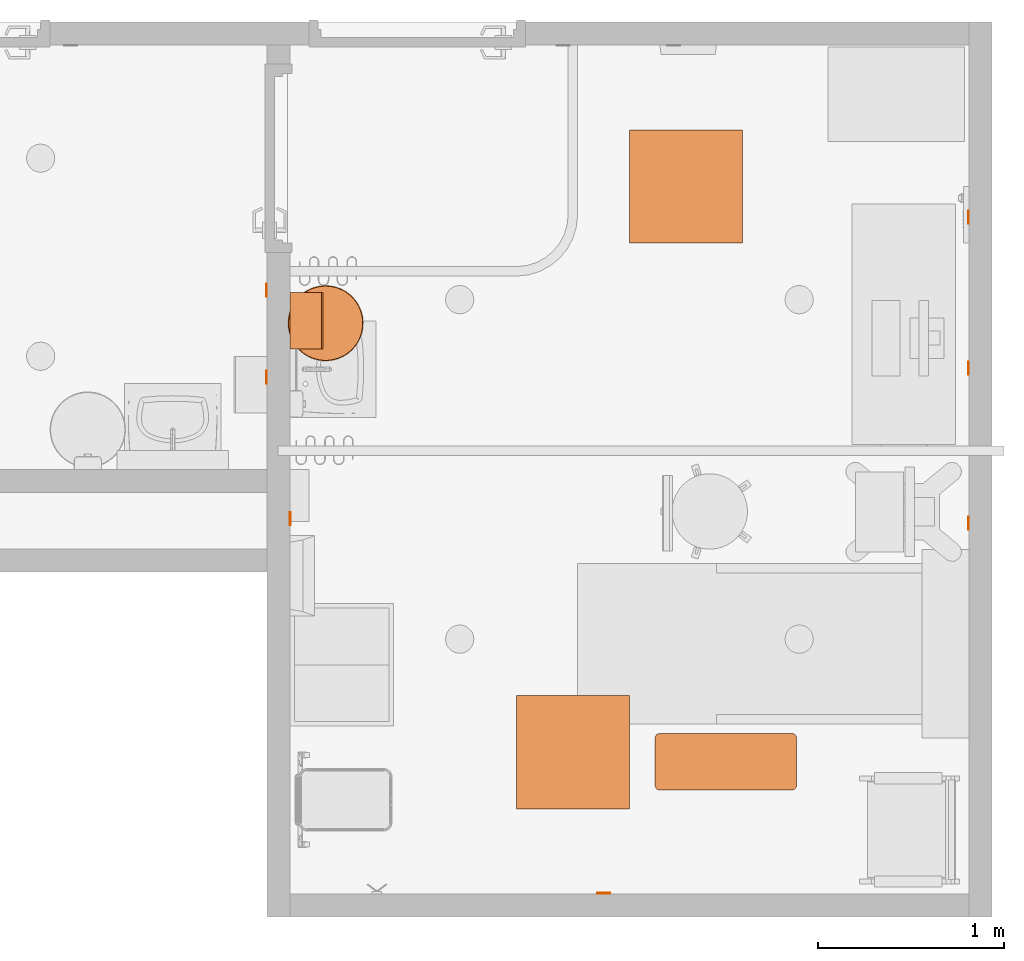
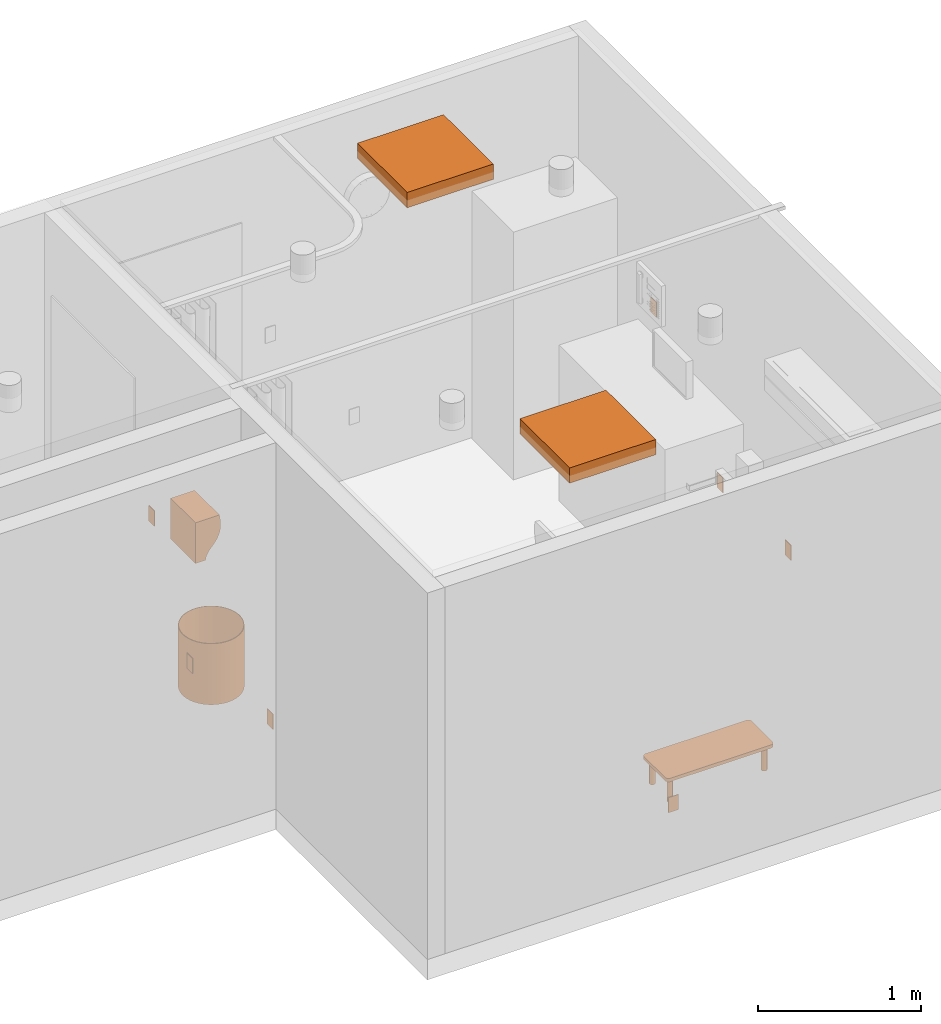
# One storey, part 11 of 14: 12 proxies.
"""IFC2X3 building model written with IfcOpenShell, lengths in feet."""

from ifc_helpers import new_model, entity, si_unit, converted_unit, derived_unit, direction, frame, frame_2d, origin, origin_2d_with_axis, place, context, subcontext, project, spatial, polyline, circle_curve, parameter, trimmed, segment, composite_curve, rectangle, circle, hollow_circle, outline, extrude, source, transform, mapped, type_object, type_shapes, element, save


model = new_model("IFC2X3")

# Units and contexts
model_context = context("Model", 3, precision=0.0001, world=origin(), true_north=direction((6.12303176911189e-17, 1.0)))
body_context = subcontext(model_context, "Body", "Model", "MODEL_VIEW")
ifc_project = project(units=[converted_unit("LENGTHUNIT", "FOOT", entity("IfcRatioMeasure", 0.3048), si_unit("LENGTHUNIT", "METRE"), dimensions=[1, 0, 0, 0, 0, 0, 0]), converted_unit("AREAUNIT", "SQUARE FOOT", entity("IfcRatioMeasure", 0.09290304), si_unit("AREAUNIT", "SQUARE_METRE"), dimensions=[2, 0, 0, 0, 0, 0, 0]), converted_unit("VOLUMEUNIT", "CUBIC FOOT", entity("IfcRatioMeasure", 0.028316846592), si_unit("VOLUMEUNIT", "CUBIC_METRE"), dimensions=[3, 0, 0, 0, 0, 0, 0]), converted_unit("PLANEANGLEUNIT", "DEGREE", entity("IfcRatioMeasure", 0.0174532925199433), si_unit("PLANEANGLEUNIT", "RADIAN"), dimensions=[0, 0, 0, 0, 0, 0, 0]), si_unit("MASSUNIT", "GRAM", prefix="KILO"), derived_unit("MASSDENSITYUNIT", [(si_unit("MASSUNIT", "GRAM", prefix="KILO"), 1), (si_unit("LENGTHUNIT", "METRE"), -3)]), si_unit("TIMEUNIT", "SECOND"), si_unit("FREQUENCYUNIT", "HERTZ"), si_unit("THERMODYNAMICTEMPERATUREUNIT", "DEGREE_CELSIUS"), derived_unit("THERMALTRANSMITTANCEUNIT", [(si_unit("MASSUNIT", "GRAM", prefix="KILO"), 1), (si_unit("THERMODYNAMICTEMPERATUREUNIT", "KELVIN"), -1), (si_unit("TIMEUNIT", "SECOND"), -3)]), derived_unit("VOLUMETRICFLOWRATEUNIT", [(si_unit("LENGTHUNIT", "METRE"), 3), (si_unit("TIMEUNIT", "SECOND"), -1)]), si_unit("ELECTRICCURRENTUNIT", "AMPERE"), si_unit("ELECTRICVOLTAGEUNIT", "VOLT"), si_unit("POWERUNIT", "WATT"), si_unit("FORCEUNIT", "NEWTON"), si_unit("ILLUMINANCEUNIT", "LUX"), si_unit("LUMINOUSFLUXUNIT", "LUMEN"), si_unit("LUMINOUSINTENSITYUNIT", "CANDELA"), derived_unit("USERDEFINED", [(si_unit("MASSUNIT", "GRAM", prefix="KILO"), -1), (si_unit("LENGTHUNIT", "METRE"), -2), (si_unit("TIMEUNIT", "SECOND"), 3), (si_unit("LUMINOUSFLUXUNIT", "LUMEN"), 1)]), derived_unit("LINEARVELOCITYUNIT", [(si_unit("LENGTHUNIT", "METRE"), 1), (si_unit("TIMEUNIT", "SECOND"), -1)]), si_unit("PRESSUREUNIT", "PASCAL"), derived_unit("USERDEFINED", [(si_unit("LENGTHUNIT", "METRE"), -2), (si_unit("MASSUNIT", "GRAM", prefix="KILO"), 1), (si_unit("TIMEUNIT", "SECOND"), -2)])], contexts=[model_context])

# Site, building, storey, space
site_placement = place(None, origin())
site = spatial("IfcSite", under=ifc_project, at=site_placement, Name="Default", CompositionType="ELEMENT")
building_placement = place(site_placement, origin())
building = spatial("IfcBuilding", under=site, at=building_placement, Name="OUTPATIENT / PACT CLINIC (Ch. 265)", CompositionType="ELEMENT")
storey_placement = place(building_placement, origin())
storey = spatial("IfcBuildingStorey", under=building, at=storey_placement, Name="DATUM", CompositionType="ELEMENT", Elevation=0.0)
space_1_placement = place(storey_placement, origin())
space_1 = spatial("IfcSpace", under=storey, at=space_1_placement, Name="XDUS1", CompositionType="ELEMENT", InteriorOrExteriorSpace="INTERNAL")

# Proxies
building_element_proxy_type_1 = type_object("IfcBuildingElementProxyType", Name="24\" x 24\"", PredefinedType="NOTDEFINED")
shared_shape_1 = source(origin(), body_context, "Body", "SweptSolid", [
    extrude(rectangle(XDim=2.0, YDim=2.0, at=origin_2d_with_axis()), frame((0.0, 0.0, 8.0)), (0.0, 0.0, 1.0), 0.375),
])
type_shapes(building_element_proxy_type_1, [shared_shape_1])
proxy_1_placement = place(space_1_placement, frame((339.637693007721, -845.593724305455, 1.0)))
element("IfcBuildingElementProxy", 1, at=proxy_1_placement, inside=space_1, type_object=building_element_proxy_type_1, Name="Return Register:24\" x 24\"", ObjectType="24\" x 24\"", context=body_context, shape_type="MappedRepresentation", body=[
    mapped(shared_shape_1, transform((0.0, 0.0, 0.0), scale=1.0)),
])
building_element_proxy_type_2 = type_object("IfcBuildingElementProxyType", Name="F0355 - Footstool, Straight", PredefinedType="NOTDEFINED")
shared_shape_2 = source(origin(), body_context, "Body", "SweptSolid", [
    extrude(circle(Radius=0.0625, at=frame_2d((0.0, -1.11022302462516e-16), x_axis=(1.0, 0.0))), frame((-1.09454519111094, -0.349334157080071, 0.0)), (0.0, 0.0, 1.0), 0.583333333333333),
    extrude(outline(composite_curve([segment(polyline([(-0.416666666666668, -1.25), (0.416666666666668, -1.25)]), True, "CONTINUOUS"), segment(trimmed(circle_curve(frame_2d((0.416666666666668, -1.16666666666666), x_axis=(0.0, 1.0)), 0.0833333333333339), [parameter(180.0)], [parameter(270.0)], True, "PARAMETER"), True, "CONTINUOUS"), segment(polyline([(0.500000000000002, -1.16666666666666), (0.500000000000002, 1.16666666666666)]), True, "CONTINUOUS"), segment(trimmed(circle_curve(frame_2d((0.416666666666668, 1.16666666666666), x_axis=(0.0, 1.0)), 0.0833333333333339), [parameter(270.0)], [parameter(5.08888749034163e-14)], True, "PARAMETER"), True, "CONTINUOUS"), segment(polyline([(0.416666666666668, 1.25), (-0.416666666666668, 1.25)]), True, "CONTINUOUS"), segment(trimmed(circle_curve(frame_2d((-0.416666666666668, 1.16666666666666), x_axis=(0.0, 1.0)), 0.0833333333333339), [parameter(0.0)], [parameter(90.0000000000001)], True, "PARAMETER"), True, "CONTINUOUS"), segment(polyline([(-0.500000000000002, 1.16666666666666), (-0.500000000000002, -1.16666666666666)]), True, "CONTINUOUS"), segment(trimmed(circle_curve(frame_2d((-0.416666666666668, -1.16666666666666), x_axis=(0.0, 1.0)), 0.0833333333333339), [parameter(90.0000000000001)], [parameter(180.0)], True, "PARAMETER"), True, "CONTINUOUS")], self_intersect=False)), frame((0.0, 0.0, 0.583333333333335), z_axis=(0.0, 0.0, 1.0), x_axis=(0.0, -1.0, 0.0)), (0.0, 0.0, 1.0), 0.0833333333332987),
    extrude(circle(Radius=0.0625, at=frame_2d((0.0, -1.11022302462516e-16), x_axis=(1.0, 0.0))), frame((1.09454519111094, 0.358999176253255, 0.0)), (0.0, 0.0, 1.0), 0.583333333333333),
    extrude(circle(Radius=0.0625, at=frame_2d((0.0, -1.11022302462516e-16), x_axis=(1.0, 0.0))), frame((-1.09454519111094, 0.358999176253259, 0.0)), (0.0, 0.0, 1.0), 0.583333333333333),
    extrude(circle(Radius=0.0625, at=frame_2d((0.0, -1.11022302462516e-16), x_axis=(1.0, 0.0))), frame((1.09454519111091, -0.349334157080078, 0.0)), (0.0, 0.0, 1.0), 0.583333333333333),
])
type_shapes(building_element_proxy_type_2, [shared_shape_2])
proxy_2_placement = place(space_1_placement, frame((340.340818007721, -855.760390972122, 0.0)))
element("IfcBuildingElementProxy", 2, at=proxy_2_placement, inside=space_1, type_object=building_element_proxy_type_2, Name="F0355 - Footstool, Straight:F0355 - Footstool, Straight", ObjectType="F0355 - Footstool, Straight", context=body_context, shape_type="MappedRepresentation", body=[
    mapped(shared_shape_2, transform((0.0, 0.0, 0.0), scale=1.0)),
])
building_element_proxy_type_3 = type_object("IfcBuildingElementProxyType", Name="F2000 - Basket, Wastepaper", PredefinedType="NOTDEFINED")
shared_shape_3 = source(origin(), body_context, "Body", "SweptSolid", [
    extrude(circle(Radius=0.666666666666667, at=frame_2d((0.0, -1.07702971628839e-15), x_axis=(1.0, 0.0))), origin(), (0.0, 0.0, 1.0), 0.0104166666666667),
    extrude(hollow_circle(Radius=0.666666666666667, WallThickness=0.0104166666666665, at=frame_2d((0.0, -1.07702971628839e-15), x_axis=(1.0, 0.0))), frame((0.0, 0.0, 0.0104166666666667)), (0.0, 0.0, 1.0), 1.48958333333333),
])
type_shapes(building_element_proxy_type_3, [shared_shape_3])
proxy_3_placement = place(space_1_placement, frame((333.267901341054, -848.010390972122, 0.0), z_axis=(0.0, 0.0, 1.0), x_axis=(0.0, 1.0, 0.0)))
element("IfcBuildingElementProxy", 3, at=proxy_3_placement, inside=space_1, type_object=building_element_proxy_type_3, Name="F2000 - Basket, Wastepaper:F2000 - Basket, Wastepaper", ObjectType="F2000 - Basket, Wastepaper", context=body_context, shape_type="MappedRepresentation", body=[
    mapped(shared_shape_3, transform((0.0, 0.0, 0.0), scale=1.0)),
])
building_element_proxy_type_4 = type_object("IfcBuildingElementProxyType", Name="A5082 - Dispenser, Paper Towel, Sensor, Hands Free", PredefinedType="NOTDEFINED")
shared_shape_4 = source(origin(), body_context, "Body", "SweptSolid", [
    extrude(outline(polyline([(-0.394840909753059, -0.5716804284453), (0.162901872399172, -0.5716804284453), (0.181242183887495, -0.466986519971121), (0.189922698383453, -0.373421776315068), (0.189954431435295, -0.2899834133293), (0.182348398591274, -0.215668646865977), (0.168115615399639, -0.149474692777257), (0.148267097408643, -0.0903987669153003), (0.123813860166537, -0.0374380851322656), (0.095766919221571, 0.0104101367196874), (0.0651372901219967, 0.0541486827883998), (0.0329359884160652, 0.0947803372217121), (0.000174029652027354, 0.133307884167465), (-0.0321375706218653, 0.1707341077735), (-0.0629877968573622, 0.208061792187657), (-0.0913656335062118, 0.246293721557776), (-0.116260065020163, 0.2864326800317), (-0.136660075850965, 0.329481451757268), (-0.151554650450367, 0.376442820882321), (-0.159932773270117, 0.4283195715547), (-0.394840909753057, 0.428319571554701), (-0.394840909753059, -0.5716804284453)])), frame((0.0, -0.394840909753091, 0.428319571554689), z_axis=(1.0, 0.0, 0.0), x_axis=(0.0, -1.0, 0.0)), (0.0, 0.0, 1.0), 1.0),
])
type_shapes(building_element_proxy_type_4, [shared_shape_4])
proxy_4_placement = place(space_1_placement, frame((332.637693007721, -848.468724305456, 3.5), z_axis=(0.0, 0.0, 1.0), x_axis=(0.0, 1.0, 0.0)))
element("IfcBuildingElementProxy", 4, at=proxy_4_placement, inside=space_1, type_object=building_element_proxy_type_4, Name="A5082 - Dispenser, Paper Towel, Sensor, Hands Free:A5082 - Dispenser, Paper Towel, Sensor, Hands Free", ObjectType="A5082 - Dispenser, Paper Towel, Sensor, Hands Free", context=body_context, shape_type="MappedRepresentation", body=[
    mapped(shared_shape_4, transform((0.0, 0.0, 0.0), scale=1.0)),
])
building_element_proxy_type_5 = type_object("IfcBuildingElementProxyType", Name="24\" x 24\"", PredefinedType="NOTDEFINED")
shared_shape_5 = source(origin(), body_context, "Body", "SweptSolid", [
    extrude(rectangle(XDim=2.00000000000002, YDim=2.00000000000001, at=origin_2d_with_axis()), frame((0.0, 0.0, 8.0), z_axis=(0.0, 0.0, 1.0), x_axis=(0.0, 1.0, 0.0)), (0.0, 0.0, 1.0), 0.375),
])
type_shapes(building_element_proxy_type_5, [shared_shape_5])
proxy_5_placement = place(space_1_placement, frame((337.637693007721, -855.593724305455, 1.0)))
element("IfcBuildingElementProxy", 5, at=proxy_5_placement, inside=space_1, type_object=building_element_proxy_type_5, Name="Supply Diffuser:24\" x 24\"", ObjectType="24\" x 24\"", context=body_context, shape_type="MappedRepresentation", body=[
    mapped(shared_shape_5, transform((0.0, 0.0, 0.0), scale=1.0)),
])
building_element_proxy_type_6 = type_object("IfcBuildingElementProxyType", Name="Telephone/Data", PredefinedType="NOTDEFINED")
shared_shape_6 = source(origin(), body_context, "Body", "SweptSolid", [
    extrude(rectangle(XDim=0.0156249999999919, YDim=0.229166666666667, at=origin_2d_with_axis()), frame((0.0, 0.210937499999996, 0.0), z_axis=(0.0, 0.0, 1.0), x_axis=(0.0, 1.0, 0.0)), (0.0, 0.0, 1.0), 0.375),
])
type_shapes(building_element_proxy_type_6, [shared_shape_6])
proxy_6_placement = place(space_1_placement, frame((344.840818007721, -846.140599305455, 4.0), z_axis=(0.0, 0.0, 1.0), x_axis=(0.0, 1.0, 0.0)))
element("IfcBuildingElementProxy", 6, at=proxy_6_placement, inside=space_1, type_object=building_element_proxy_type_6, Name="Outlet, Communications:Telephone/Data", ObjectType="Telephone/Data", context=body_context, shape_type="MappedRepresentation", body=[
    mapped(shared_shape_6, transform((0.0, 0.0, 0.0), scale=1.0)),
])
building_element_proxy_type_7 = type_object("IfcBuildingElementProxyType", Name="Duplex", PredefinedType="NOTDEFINED")
shared_shape_7 = source(origin(), body_context, "Body", "SweptSolid", [
    extrude(rectangle(XDim=0.0156249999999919, YDim=0.229166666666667, at=origin_2d_with_axis()), frame((0.0, 0.210937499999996, 0.0), z_axis=(0.0, 0.0, 1.0), x_axis=(0.0, 1.0, 0.0)), (0.0, 0.0, 1.0), 0.37500000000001),
])
type_shapes(building_element_proxy_type_7, [shared_shape_7])
proxy_7_placement = place(space_1_placement, frame((338.184568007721, -858.296849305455, 1.3125)))
element("IfcBuildingElementProxy", 7, at=proxy_7_placement, inside=space_1, type_object=building_element_proxy_type_7, Name="Outlet, Duplex, Wall:Duplex", ObjectType="Duplex", context=body_context, shape_type="MappedRepresentation", body=[
    mapped(shared_shape_7, transform((0.0, 0.0, 0.0), scale=1.0)),
])
for number, where, z_axis, x_axis, name in (
    (8, (344.840818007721, -851.546849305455, 1.3125), (0.0, 0.0, 1.0), (0.0, 1.0, 0.0), "Outlet, Duplex, Wall:Duplex"),
    (9, (344.840818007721, -848.807265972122, 1.3125), (0.0, 0.0, 1.0), (0.0, 1.0, 0.0), "Outlet, Duplex, Wall:Duplex"),
    (10, (332.434568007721, -851.463515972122, 1.3125), (0.0, 0.0, 1.0), (0.0, -1.0, 0.0), "Outlet, Duplex, Wall:Duplex"),
):
    element("IfcBuildingElementProxy", number, at=place(space_1_placement, frame(where, z_axis=z_axis, x_axis=x_axis)), inside=space_1, type_object=building_element_proxy_type_7, Name=name, ObjectType="Duplex", context=body_context, shape_type="MappedRepresentation", body=[
        mapped(shared_shape_7, transform((0.0, 0.0, 0.0), scale=1.0)),
    ])

# Space
space_2_placement = place(storey_placement, origin())
space_2 = spatial("IfcSpace", under=storey, at=space_2_placement, Name="TNPG1", CompositionType="ELEMENT", InteriorOrExteriorSpace="INTERNAL")

# Proxies
proxy_8_placement = place(space_2_placement, frame((332.434568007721, -848.963515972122, 1.3125), z_axis=(0.0, 0.0, 1.0), x_axis=(0.0, 1.0, 0.0)))
element("IfcBuildingElementProxy", 11, at=proxy_8_placement, inside=space_2, type_object=building_element_proxy_type_7, Name="Outlet, Duplex, Wall:Duplex", ObjectType="Duplex", context=body_context, shape_type="MappedRepresentation", body=[
    mapped(shared_shape_7, transform((0.0, 0.0, 0.0), scale=1.0)),
])
building_element_proxy_type_8 = type_object("IfcBuildingElementProxyType", Name="Single", PredefinedType="NOTDEFINED")
shared_shape_8 = source(origin(), body_context, "Body", "SweptSolid", [
    extrude(rectangle(XDim=0.0156249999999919, YDim=0.229166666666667, at=frame_2d((0.0, -1.11022302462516e-16), x_axis=(1.0, 0.0))), frame((0.0, 0.210937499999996, 0.0), z_axis=(0.0, 0.0, 1.0), x_axis=(0.0, 1.0, 0.0)), (0.0, 0.0, 1.0), 0.37500000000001),
])
type_shapes(building_element_proxy_type_8, [shared_shape_8])
proxy_9_placement = place(space_2_placement, frame((332.434568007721, -847.427057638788, 4.0), z_axis=(0.0, 0.0, 1.0), x_axis=(0.0, 1.0, 0.0)))
element("IfcBuildingElementProxy", 12, at=proxy_9_placement, inside=space_2, type_object=building_element_proxy_type_8, Name="Switch, Single:Single", ObjectType="Single", context=body_context, shape_type="MappedRepresentation", body=[
    mapped(shared_shape_8, transform((0.0, 0.0, 0.0), scale=1.0)),
])

save(model, "model.ifc")
